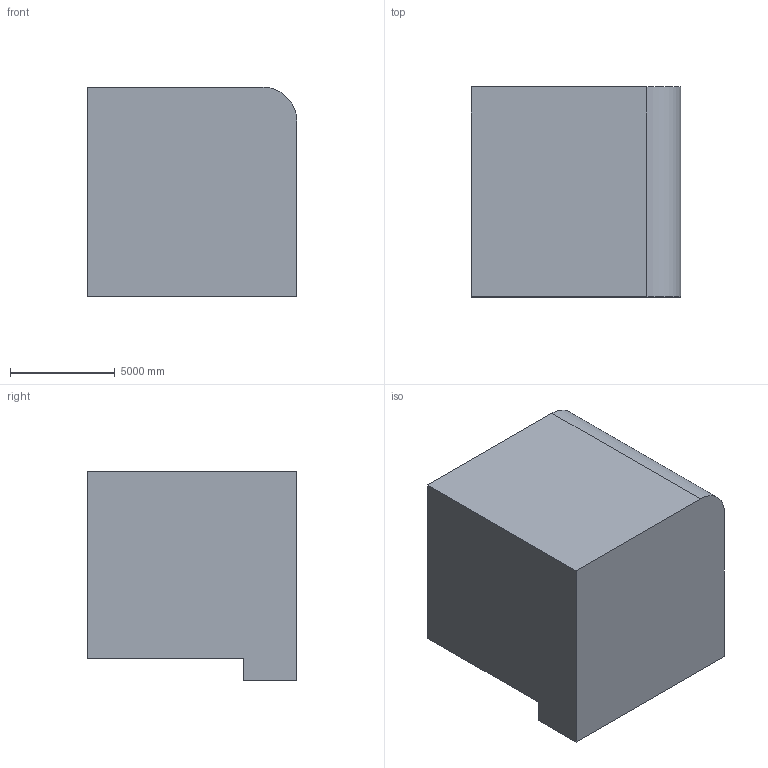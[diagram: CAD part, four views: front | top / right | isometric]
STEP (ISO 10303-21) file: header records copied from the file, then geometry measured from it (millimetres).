
FILE_DESCRIPTION (( 'STEP AP203' ), '1' );
FILE_NAME ('276.STEP', '2022-07-28T14:10:55', ( 'user' ), ( '' ), 'SwSTEP 2.0', 'SolidWorks 2021', '' );
FILE_SCHEMA (( 'CONFIG_CONTROL_DESIGN' ));
Length unit declared in the file: centimetre
Products named in the file (1): 276
Bounding box: 10000 x 10000 x 10000 mm (x, y, z)
Volume: 835877390760.6 mm3; surface area: 589149128.7 mm2
Topology: 1 solids, 1 shells, 16 faces, 39 edges, 26 vertices
Faces by surface type: plane 15, cylinder 1
Entity records: 542 total; most frequent: CARTESIAN_POINT 82, ORIENTED_EDGE 78, DIRECTION 75, EDGE_CURVE 39, VECTOR 37, LINE 37, VERTEX_POINT 26, AXIS2_PLACEMENT_3D 19
